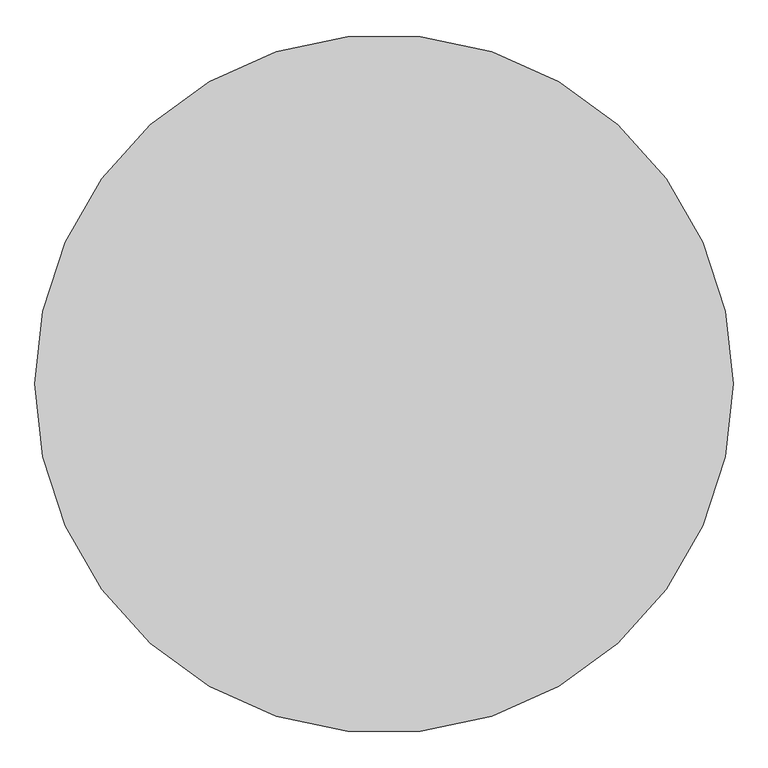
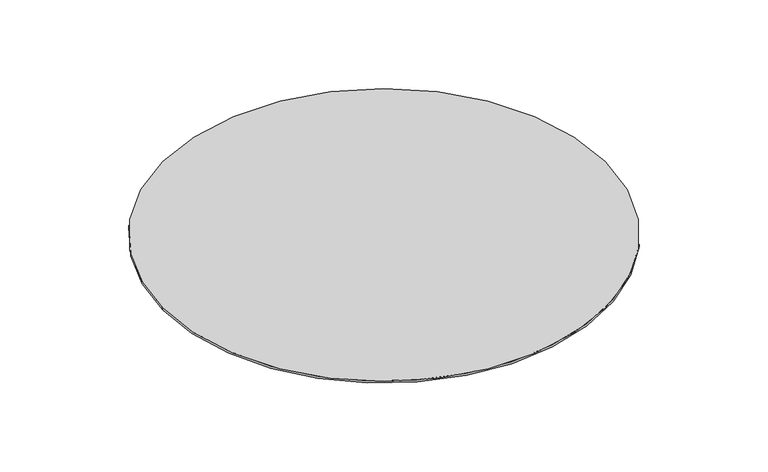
"""IFC4 building model written with IfcOpenShell, lengths in millimetres: furniture geometry, Rundt teppe 3000 : Rundt teppe 3."""

from ifc_helpers import new_model, si_unit, point, frame_2d, origin, origin_with_axes, place, context, project, spatial, circle_curve, trimmed, segment, composite_curve, outline, extrude, source, transform, mapped, element, save


def furniture_e992fe18(model_context):
    return source(origin(), model_context, "Body", "SweptSolid", [
        extrude(outline(composite_curve([segment(trimmed(circle_curve(frame_2d((18.3974622, -69.4617646)), 1000.0), [point((-981.6025378, -69.4617646))], [point((1018.3974622, -69.4617646))], False, "CARTESIAN"), True, "CONTINUOUS"), segment(trimmed(circle_curve(frame_2d((18.3974622, -69.4617646)), 1000.0), [point((1018.3974622, -69.4617646))], [point((-981.6025378, -69.4617646))], False, "CARTESIAN"), True, "CONTINUOUS")], self_intersect=False)), origin_with_axes(), (0.0, 0.0, 1.0), 9.2282868),
    ])


if __name__ == "__main__":
    model = new_model("IFC4")
    model_context = context("Model", 3, world=origin())
    ifc_project = project(units=[si_unit("LENGTHUNIT", "METRE", prefix="MILLI")], contexts=[model_context])
    site = spatial("IfcSite", under=ifc_project)
    building = spatial("IfcBuilding", under=site)
    placement = place(None, origin())
    furniture_shape = furniture_e992fe18(model_context)
    element("IfcFurniture", 1, ObjectType="Rundt teppe 3000 : Rundt teppe 3", at=placement, inside=building, context=model_context, shape_type="MappedRepresentation", body=[
        mapped(furniture_shape, transform((0.0, 0.0, 0.0), x_axis=(1.0, 0.0, 0.0), y_axis=(0.0, 1.0, 0.0), z_axis=(0.0, 0.0, 1.0))),
    ])
    save(model, "model.ifc")
